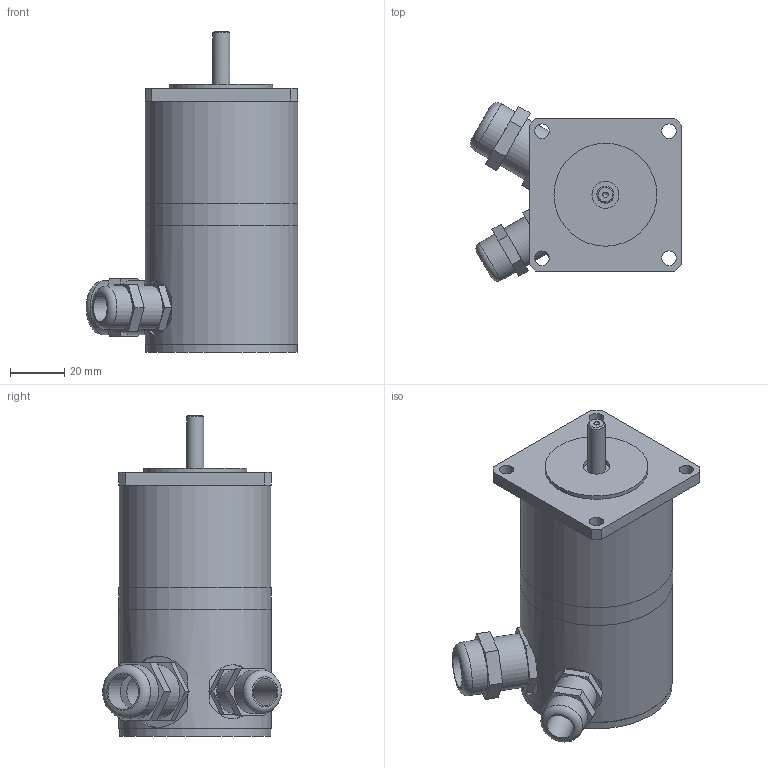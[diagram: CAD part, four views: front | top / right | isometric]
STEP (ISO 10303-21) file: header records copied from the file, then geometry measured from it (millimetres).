
FILE_DESCRIPTION((''),'2;1');
FILE_NAME('C:\Users\Reinhard\Documents\Inventor\Testschrittmotor\SM56\step files\SM 56.1-H200-KV.stp','2020-02-24T21:43:25',('Reinhard'),(''),'Autodesk Inventor 2012','Autodesk Inventor 2012','');
FILE_SCHEMA(('CONFIG_CONTROL_DESIGN'));
Length unit declared in the file: millimetre
Products named in the file (1): SM 56.1-H200-KV_Konturvereinfachung_1
Bounding box: 78.27 x 66.07 x 118.7 mm (x, y, z)
Volume: 91012.1 mm3; surface area: 51944.7 mm2
Topology: 2 solids, 3 shells, 110 faces, 243 edges, 157 vertices
Faces by surface type: plane 72, cylinder 33, torus 3, cone 2
Full cylindrical faces by diameter (mm): 2 x1, 5.4 x4, 6.35 x2, 10 x2, 12 x2, 13 x2, 15 x2, 16 x2, 18.376 x1, 20 x3, 38.1 x1, 48 x1, 51.5 x1, 53.5 x1, 56 x1, 56.5 x3
Entity records: 2976 total; most frequent: CARTESIAN_POINT 595, DIRECTION 484, ORIENTED_EDGE 406, EDGE_CURVE 203, AXIS2_PLACEMENT_3D 180, EDGE_LOOP 178, VERTEX_POINT 151, VECTOR 124
